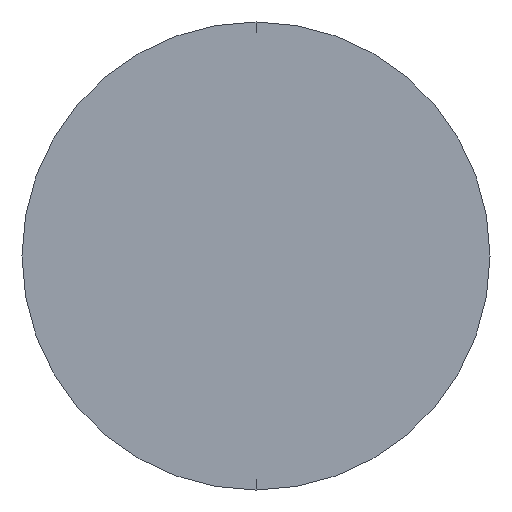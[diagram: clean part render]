
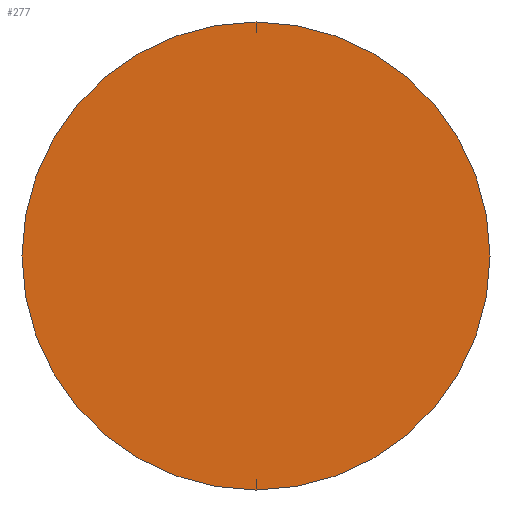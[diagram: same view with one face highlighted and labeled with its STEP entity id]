
A CAD part, left-side view. The second image highlights one B-rep face of the part: STEP entity #277.
In plain terms, the highlighted planar face has unit normal (-1, 0, 0).
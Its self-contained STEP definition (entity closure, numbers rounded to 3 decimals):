
#24 = EDGE_LOOP ( 'NONE', ( #171, #50 ) ) ;
#41 = CARTESIAN_POINT ( 'NONE',  ( 0., 0., 0. ) ) ;
#45 = EDGE_CURVE ( 'NONE', #263, #186, #77, .T. ) ;
#50 = ORIENTED_EDGE ( 'NONE', *, *, #45, .T. ) ;
#70 = DIRECTION ( 'NONE',  ( 0., 0., 1. ) ) ;
#72 = CARTESIAN_POINT ( 'NONE',  ( 0., 0., 0. ) ) ;
#77 = CIRCLE ( 'NONE', #180, 1.75 ) ;
#79 = DIRECTION ( 'NONE',  ( -1., 0., 0. ) ) ;
#93 = FACE_OUTER_BOUND ( 'NONE', #24, .T. ) ;
#98 = CARTESIAN_POINT ( 'NONE',  ( 0., 0., 1.75 ) ) ;
#110 = DIRECTION ( 'NONE',  ( 0., 0., -1. ) ) ;
#113 = DIRECTION ( 'NONE',  ( 1., 0., 0. ) ) ;
#117 = EDGE_CURVE ( 'NONE', #186, #263, #247, .T. ) ;
#148 = CARTESIAN_POINT ( 'NONE',  ( 0., 0., -1.75 ) ) ;
#152 = DIRECTION ( 'NONE',  ( 0., 0., 1. ) ) ;
#171 = ORIENTED_EDGE ( 'NONE', *, *, #117, .T. ) ;
#180 = AXIS2_PLACEMENT_3D ( 'NONE', #41, #202, #70 ) ;
#186 = VERTEX_POINT ( 'NONE', #98 ) ;
#192 = PLANE ( 'NONE',  #267 ) ;
#202 = DIRECTION ( 'NONE',  ( -1., 0., 0. ) ) ;
#207 = AXIS2_PLACEMENT_3D ( 'NONE', #72, #79, #152 ) ;
#212 = CARTESIAN_POINT ( 'NONE',  ( 0., 0., 0. ) ) ;
#247 = CIRCLE ( 'NONE', #207, 1.75 ) ;
#263 = VERTEX_POINT ( 'NONE', #148 ) ;
#267 = AXIS2_PLACEMENT_3D ( 'NONE', #212, #113, #110 ) ;
#277 = ADVANCED_FACE ( 'NONE', ( #93 ), #192, .F. ) ;
